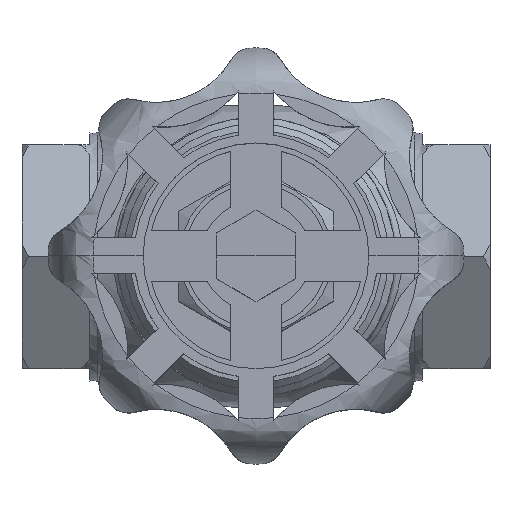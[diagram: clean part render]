
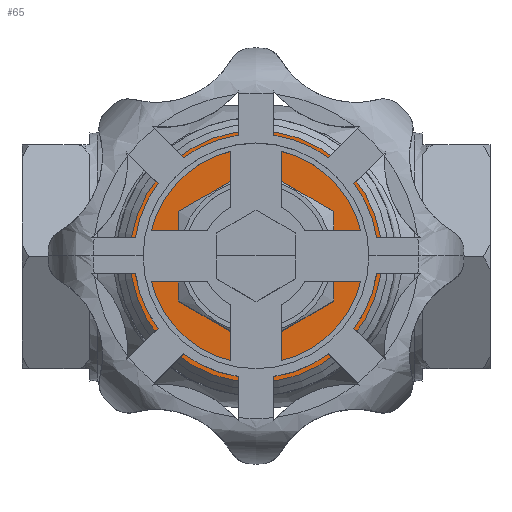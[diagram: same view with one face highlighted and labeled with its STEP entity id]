
A CAD part, top view. The second image highlights one B-rep face of the part: STEP entity #65.
In plain terms, the highlighted planar face has unit normal (0, 0, 1).
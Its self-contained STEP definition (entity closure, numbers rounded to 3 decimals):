
#65=ADVANCED_FACE('',(#531,#532),#530,.T.);
#530=PLANE('',#3129);
#531=FACE_OUTER_BOUND('',#3130,.T.);
#532=FACE_BOUND('',#3131,.T.);
#3126=CARTESIAN_POINT('',(-31.475,-50.323,45.987));
#3127=DIRECTION('',(0.,0.,1.));
#3128=DIRECTION('',(1.,0.,0.));
#3129=AXIS2_PLACEMENT_3D('',#3126,#3127,#3128);
#3130=EDGE_LOOP('',(#5474,#5475));
#3131=EDGE_LOOP('',(#5476,#5477,#5478,#5479,#5480,#5481,#5482,#5483,#5484,#5485,#5486,#5487));
#5474=ORIENTED_EDGE('',*,*,#6860,.F.);
#5475=ORIENTED_EDGE('',*,*,#6861,.F.);
#5476=ORIENTED_EDGE('',*,*,#6846,.T.);
#5477=ORIENTED_EDGE('',*,*,#6862,.F.);
#5478=ORIENTED_EDGE('',*,*,#6852,.T.);
#5479=ORIENTED_EDGE('',*,*,#6863,.F.);
#5480=ORIENTED_EDGE('',*,*,#6864,.T.);
#5481=ORIENTED_EDGE('',*,*,#6865,.F.);
#5482=ORIENTED_EDGE('',*,*,#6866,.T.);
#5483=ORIENTED_EDGE('',*,*,#6867,.F.);
#5484=ORIENTED_EDGE('',*,*,#6868,.T.);
#5485=ORIENTED_EDGE('',*,*,#6869,.F.);
#5486=ORIENTED_EDGE('',*,*,#6856,.T.);
#5487=ORIENTED_EDGE('',*,*,#6870,.F.);
#6846=EDGE_CURVE('',#8196,#8188,#8197,.T.);
#6852=EDGE_CURVE('',#8217,#8231,#8238,.T.);
#6856=EDGE_CURVE('',#8245,#8259,#8266,.T.);
#6860=EDGE_CURVE('',#8292,#8293,#8294,.T.);
#6861=EDGE_CURVE('',#8293,#8292,#8300,.T.);
#6862=EDGE_CURVE('',#8217,#8188,#8306,.T.);
#6863=EDGE_CURVE('',#8312,#8231,#8313,.T.);
#6864=EDGE_CURVE('',#8312,#8319,#8320,.T.);
#6865=EDGE_CURVE('',#8326,#8319,#8327,.T.);
#6866=EDGE_CURVE('',#8326,#8333,#8334,.T.);
#6867=EDGE_CURVE('',#8340,#8333,#8341,.T.);
#6868=EDGE_CURVE('',#8340,#8347,#8348,.T.);
#6869=EDGE_CURVE('',#8245,#8347,#8354,.T.);
#6870=EDGE_CURVE('',#8196,#8259,#8360,.T.);
#8188=VERTEX_POINT('',#12901);
#8196=VERTEX_POINT('',#12906);
#8197=CIRCLE('',#12910,17.203);
#8217=VERTEX_POINT('',#12920);
#8231=VERTEX_POINT('',#12929);
#8238=CIRCLE('',#12936,17.203);
#8245=VERTEX_POINT('',#12938);
#8259=VERTEX_POINT('',#12947);
#8266=CIRCLE('',#12954,17.203);
#8292=VERTEX_POINT('',#12973);
#8293=VERTEX_POINT('',#12974);
#8294=CIRCLE('',#12978,24.211);
#8300=CIRCLE('',#12982,24.211);
#8306=LINE('',#12983,#12984);
#8312=VERTEX_POINT('',#12986);
#8313=LINE('',#12987,#12988);
#8319=VERTEX_POINT('',#12990);
#8320=CIRCLE('',#12994,17.203);
#8326=VERTEX_POINT('',#12995);
#8327=LINE('',#12996,#12997);
#8333=VERTEX_POINT('',#12999);
#8334=CIRCLE('',#13003,17.203);
#8340=VERTEX_POINT('',#13004);
#8341=LINE('',#13005,#13006);
#8347=VERTEX_POINT('',#13008);
#8348=CIRCLE('',#13012,17.203);
#8354=LINE('',#13013,#13014);
#8360=LINE('',#13016,#13017);
#12901=CARTESIAN_POINT('',(14.865,-8.658,45.987));
#12906=CARTESIAN_POINT('',(14.931,-8.544,45.987));
#12907=CARTESIAN_POINT('',(0.,0.,45.987));
#12908=DIRECTION('',(0.,0.,-1.));
#12909=DIRECTION('',(1.,0.,0.));
#12910=AXIS2_PLACEMENT_3D('',#12907,#12908,#12909);
#12920=CARTESIAN_POINT('',(0.066,-17.203,45.987));
#12929=CARTESIAN_POINT('',(-0.066,-17.203,45.987));
#12933=CARTESIAN_POINT('',(0.,0.,45.987));
#12934=DIRECTION('',(0.,0.,-1.));
#12935=DIRECTION('',(1.,0.,0.));
#12936=AXIS2_PLACEMENT_3D('',#12933,#12934,#12935);
#12938=CARTESIAN_POINT('',(14.865,8.658,45.987));
#12947=CARTESIAN_POINT('',(14.931,8.544,45.987));
#12951=CARTESIAN_POINT('',(0.,0.,45.987));
#12952=DIRECTION('',(0.,0.,-1.));
#12953=DIRECTION('',(1.,0.,0.));
#12954=AXIS2_PLACEMENT_3D('',#12951,#12952,#12953);
#12973=CARTESIAN_POINT('',(24.211,0.,45.987));
#12974=CARTESIAN_POINT('',(-24.211,0.,45.987));
#12975=CARTESIAN_POINT('',(0.,0.,45.987));
#12976=DIRECTION('',(0.,0.,-1.));
#12977=DIRECTION('',(-1.,0.,0.));
#12978=AXIS2_PLACEMENT_3D('',#12975,#12976,#12977);
#12979=CARTESIAN_POINT('',(0.,0.,45.987));
#12980=DIRECTION('',(0.,0.,-1.));
#12981=DIRECTION('',(-1.,0.,0.));
#12982=AXIS2_PLACEMENT_3D('',#12979,#12980,#12981);
#12983=CARTESIAN_POINT('',(0.066,-17.203,45.987));
#12984=VECTOR('',#12985,17.089);
#12985=DIRECTION('',(0.866,0.5,0.));
#12986=CARTESIAN_POINT('',(-14.865,-8.658,45.987));
#12987=CARTESIAN_POINT('',(-14.865,-8.658,45.987));
#12988=VECTOR('',#12989,17.089);
#12989=DIRECTION('',(0.866,-0.5,0.));
#12990=CARTESIAN_POINT('',(-14.931,-8.544,45.987));
#12991=CARTESIAN_POINT('',(0.,0.,45.987));
#12992=DIRECTION('',(0.,0.,-1.));
#12993=DIRECTION('',(1.,0.,0.));
#12994=AXIS2_PLACEMENT_3D('',#12991,#12992,#12993);
#12995=CARTESIAN_POINT('',(-14.931,8.544,45.987));
#12996=CARTESIAN_POINT('',(-14.931,8.544,45.987));
#12997=VECTOR('',#12998,17.089);
#12998=DIRECTION('',(0.,-1.,0.));
#12999=CARTESIAN_POINT('',(-14.865,8.658,45.987));
#13000=CARTESIAN_POINT('',(0.,0.,45.987));
#13001=DIRECTION('',(0.,0.,-1.));
#13002=DIRECTION('',(1.,0.,0.));
#13003=AXIS2_PLACEMENT_3D('',#13000,#13001,#13002);
#13004=CARTESIAN_POINT('',(-0.066,17.203,45.987));
#13005=CARTESIAN_POINT('',(-0.066,17.203,45.987));
#13006=VECTOR('',#13007,17.089);
#13007=DIRECTION('',(-0.866,-0.5,0.));
#13008=CARTESIAN_POINT('',(0.066,17.203,45.987));
#13009=CARTESIAN_POINT('',(0.,0.,45.987));
#13010=DIRECTION('',(0.,0.,-1.));
#13011=DIRECTION('',(1.,0.,0.));
#13012=AXIS2_PLACEMENT_3D('',#13009,#13010,#13011);
#13013=CARTESIAN_POINT('',(14.865,8.658,45.987));
#13014=VECTOR('',#13015,17.089);
#13015=DIRECTION('',(-0.866,0.5,0.));
#13016=CARTESIAN_POINT('',(14.931,-8.544,45.987));
#13017=VECTOR('',#13018,17.089);
#13018=DIRECTION('',(0.,1.,0.));
